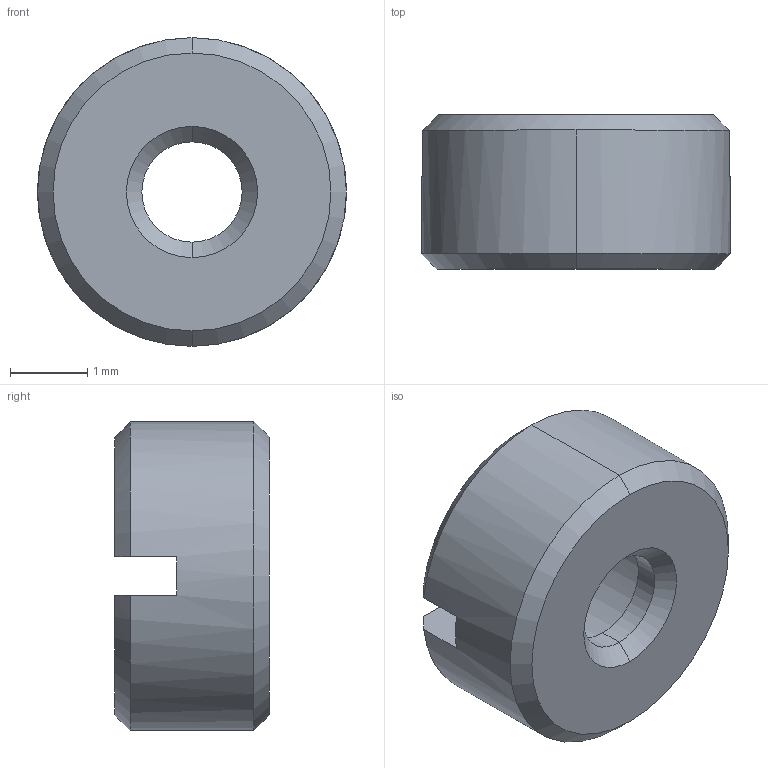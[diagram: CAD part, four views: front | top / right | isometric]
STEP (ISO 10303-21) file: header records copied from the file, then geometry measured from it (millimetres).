
FILE_DESCRIPTION (( 'STEP AP214' ), '1' );
FILE_NAME ('縐遠.STEP', '2026-10-12T07:13:32', ( '' ), ( '' ), 'SwSTEP 2.0', 'SolidWorks 2024', '' );
FILE_SCHEMA (( 'AUTOMOTIVE_DESIGN' ));
Length unit declared in the file: millimetre
Products named in the file (1): 卡环
Bounding box: 4 x 2 x 4 mm (x, y, z)
Volume: 15.8 mm3; surface area: 58 mm2
Topology: 1 solids, 1 shells, 26 faces, 66 edges, 42 vertices
Faces by surface type: cone 10, plane 10, cylinder 6
Entity records: 827 total; most frequent: CARTESIAN_POINT 159, DIRECTION 142, ORIENTED_EDGE 132, EDGE_CURVE 66, AXIS2_PLACEMENT_3D 57, VERTEX_POINT 42, CIRCLE 30, VECTOR 28
